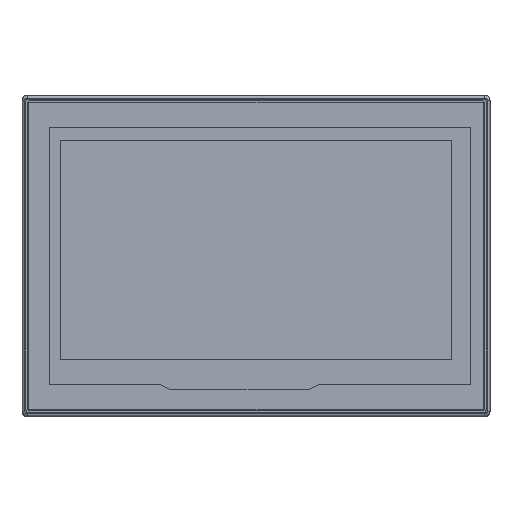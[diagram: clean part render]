
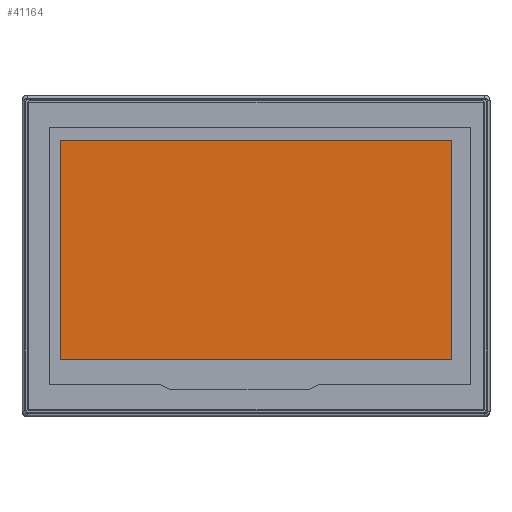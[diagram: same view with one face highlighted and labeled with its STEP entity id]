
A CAD part, top view. The second image highlights one B-rep face of the part: STEP entity #41164.
In plain terms, the highlighted planar face has unit normal (0, 0, 1).
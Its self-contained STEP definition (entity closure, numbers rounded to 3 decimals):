
#3521 = LINE ( 'NONE', #108839, #181587 ) ;
#3551 = EDGE_LOOP ( 'NONE', ( #133956, #49517, #50404, #50539 ) ) ;
#5831 = FACE_OUTER_BOUND ( 'NONE', #3551, .T. ) ;
#5876 = DIRECTION ( 'NONE',  ( 0., -1., 0. ) ) ;
#7827 = CARTESIAN_POINT ( 'NONE',  ( 0., -2., 2.088 ) ) ;
#8928 = VECTOR ( 'NONE', #5876, 1000. ) ;
#14412 = EDGE_CURVE ( 'NONE', #182835, #142355, #3521, .T. ) ;
#20458 = LINE ( 'NONE', #83631, #120708 ) ;
#24058 = EDGE_CURVE ( 'NONE', #102032, #182835, #32983, .T. ) ;
#32983 = LINE ( 'NONE', #66034, #8928 ) ;
#41164 = ADVANCED_FACE ( 'NONE', ( #5831 ), #113118, .T. ) ;
#49148 = DIRECTION ( 'NONE',  ( 0., 1., 0. ) ) ;
#49517 = ORIENTED_EDGE ( 'NONE', *, *, #24058, .T. ) ;
#49955 = DIRECTION ( 'NONE',  ( 1., 0., 0. ) ) ;
#50404 = ORIENTED_EDGE ( 'NONE', *, *, #14412, .T. ) ;
#50539 = ORIENTED_EDGE ( 'NONE', *, *, #91676, .T. ) ;
#52114 = VERTEX_POINT ( 'NONE', #126357 ) ;
#57161 = AXIS2_PLACEMENT_3D ( 'NONE', #7827, #174286, #49955 ) ;
#63222 = LINE ( 'NONE', #127382, #164341 ) ;
#63687 = DIRECTION ( 'NONE',  ( 1., 0., 0. ) ) ;
#66034 = CARTESIAN_POINT ( 'NONE',  ( -77.3, 43.55, 2.088 ) ) ;
#83631 = CARTESIAN_POINT ( 'NONE',  ( 77.3, 43.55, 2.088 ) ) ;
#91676 = EDGE_CURVE ( 'NONE', #142355, #52114, #63222, .T. ) ;
#102032 = VERTEX_POINT ( 'NONE', #136032 ) ;
#108839 = CARTESIAN_POINT ( 'NONE',  ( -77.3, -43.05, 2.088 ) ) ;
#110095 = CARTESIAN_POINT ( 'NONE',  ( -77.3, -43.05, 2.088 ) ) ;
#113118 = PLANE ( 'NONE',  #57161 ) ;
#120708 = VECTOR ( 'NONE', #173864, 1000. ) ;
#121516 = CARTESIAN_POINT ( 'NONE',  ( 77.3, -43.05, 2.088 ) ) ;
#126357 = CARTESIAN_POINT ( 'NONE',  ( 77.3, 43.55, 2.088 ) ) ;
#127382 = CARTESIAN_POINT ( 'NONE',  ( 77.3, -43.05, 2.088 ) ) ;
#133956 = ORIENTED_EDGE ( 'NONE', *, *, #134943, .T. ) ;
#134943 = EDGE_CURVE ( 'NONE', #52114, #102032, #20458, .T. ) ;
#136032 = CARTESIAN_POINT ( 'NONE',  ( -77.3, 43.55, 2.088 ) ) ;
#142355 = VERTEX_POINT ( 'NONE', #121516 ) ;
#164341 = VECTOR ( 'NONE', #49148, 1000. ) ;
#173864 = DIRECTION ( 'NONE',  ( -1., 0., 0. ) ) ;
#174286 = DIRECTION ( 'NONE',  ( 0., 0., 1. ) ) ;
#181587 = VECTOR ( 'NONE', #63687, 1000. ) ;
#182835 = VERTEX_POINT ( 'NONE', #110095 ) ;
